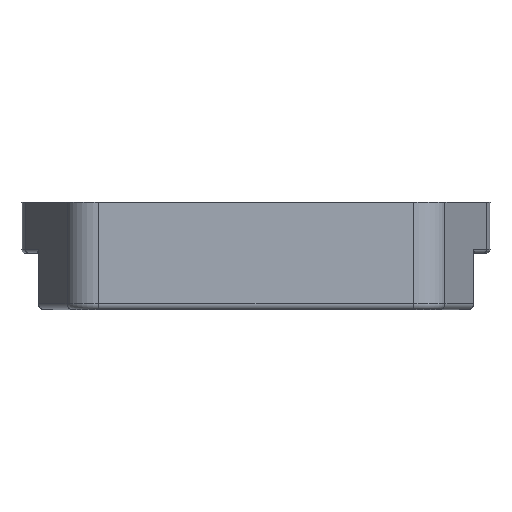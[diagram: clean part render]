
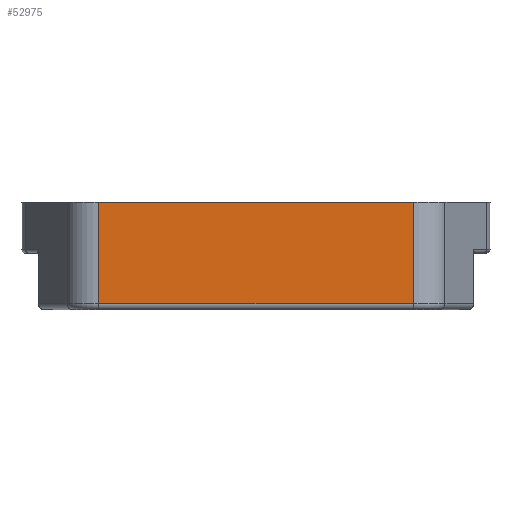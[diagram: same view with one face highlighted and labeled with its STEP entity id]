
A CAD part, front view. The second image highlights one B-rep face of the part: STEP entity #52975.
In plain terms, the highlighted planar face has unit normal (0, -1, 0).
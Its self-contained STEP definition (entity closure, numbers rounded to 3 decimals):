
#8951 = EDGE_LOOP ( 'NONE', ( #66545, #44999, #36291, #44500 ) ) ;
#11180 = CARTESIAN_POINT ( 'NONE',  ( -13.955, -13., 9.5 ) ) ;
#11609 = VERTEX_POINT ( 'NONE', #17083 ) ;
#16041 = LINE ( 'NONE', #55485, #61461 ) ;
#16313 = DIRECTION ( 'NONE',  ( 0., 0., 1. ) ) ;
#17083 = CARTESIAN_POINT ( 'NONE',  ( -13.955, -13., 9.5 ) ) ;
#18581 = PLANE ( 'NONE',  #51421 ) ;
#21876 = LINE ( 'NONE', #55108, #70741 ) ;
#22692 = DIRECTION ( 'NONE',  ( 1., 0., 0. ) ) ;
#24115 = DIRECTION ( 'NONE',  ( 0., 0., 1. ) ) ;
#24469 = EDGE_CURVE ( 'NONE', #30306, #36808, #16041, .T. ) ;
#24991 = EDGE_CURVE ( 'NONE', #36808, #25209, #21876, .T. ) ;
#25209 = VERTEX_POINT ( 'NONE', #51007 ) ;
#30306 = VERTEX_POINT ( 'NONE', #71050 ) ;
#33932 = CARTESIAN_POINT ( 'NONE',  ( 16., -13., 9.5 ) ) ;
#36291 = ORIENTED_EDGE ( 'NONE', *, *, #24991, .T. ) ;
#36808 = VERTEX_POINT ( 'NONE', #52211 ) ;
#39043 = VECTOR ( 'NONE', #49523, 1000. ) ;
#39386 = DIRECTION ( 'NONE',  ( 1., 0., 0. ) ) ;
#40765 = LINE ( 'NONE', #11180, #39043 ) ;
#41690 = EDGE_CURVE ( 'NONE', #11609, #25209, #56022, .T. ) ;
#44500 = ORIENTED_EDGE ( 'NONE', *, *, #41690, .F. ) ;
#44999 = ORIENTED_EDGE ( 'NONE', *, *, #24469, .T. ) ;
#49523 = DIRECTION ( 'NONE',  ( 0., 0., -1. ) ) ;
#50708 = CARTESIAN_POINT ( 'NONE',  ( 16., -13., 9.5 ) ) ;
#51007 = CARTESIAN_POINT ( 'NONE',  ( 13.955, -13., 9.5 ) ) ;
#51421 = AXIS2_PLACEMENT_3D ( 'NONE', #50708, #56894, #24115 ) ;
#52211 = CARTESIAN_POINT ( 'NONE',  ( 13.955, -13., 0.5 ) ) ;
#52975 = ADVANCED_FACE ( 'NONE', ( #70556 ), #18581, .F. ) ;
#55108 = CARTESIAN_POINT ( 'NONE',  ( 13.955, -13., 9.5 ) ) ;
#55485 = CARTESIAN_POINT ( 'NONE',  ( 13.955, -13., 0.5 ) ) ;
#56022 = LINE ( 'NONE', #33932, #68887 ) ;
#56894 = DIRECTION ( 'NONE',  ( 0., 1., 0. ) ) ;
#61461 = VECTOR ( 'NONE', #22692, 1000. ) ;
#66545 = ORIENTED_EDGE ( 'NONE', *, *, #68157, .T. ) ;
#68157 = EDGE_CURVE ( 'NONE', #11609, #30306, #40765, .T. ) ;
#68887 = VECTOR ( 'NONE', #39386, 1000. ) ;
#70556 = FACE_OUTER_BOUND ( 'NONE', #8951, .T. ) ;
#70741 = VECTOR ( 'NONE', #16313, 1000. ) ;
#71050 = CARTESIAN_POINT ( 'NONE',  ( -13.955, -13., 0.5 ) ) ;
